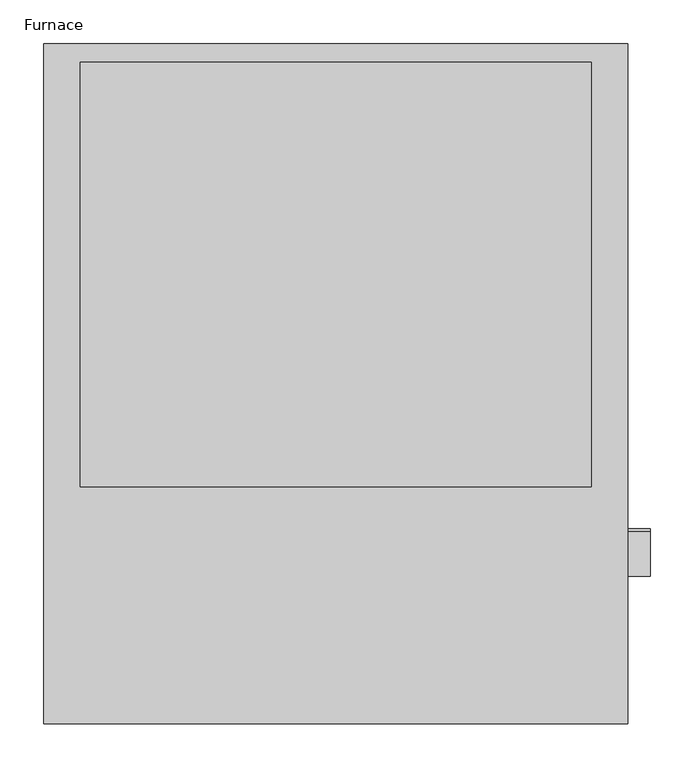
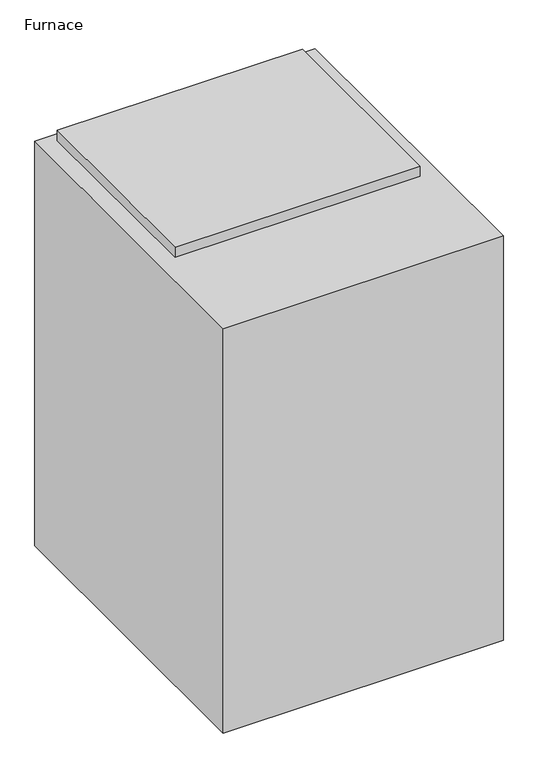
"""IFC4 building model written with IfcOpenShell, lengths in millimetres: proxy geometry, Furnace : 38000 BTUH."""

import ifcopenshell
import ifcopenshell.guid

model = None  # the IFC model being written
_history = None  # IfcOwnerHistory: only IFC2X3 demands one
_inside = {}  # id of a spatial element -> (the spatial element, [elements in it])
_under = {}  # id of a project, library or spatial element -> (it, [spatial elements below it])
_declared = {}  # id of a project -> (the project, [libraries it declares])
_typed = {}  # id of a type object -> (the type object, [elements of that type])
_made_of = {}  # id of a material, layer set ... -> (it, [elements and type objects made of it])


def new_model(schema):
    """Start an empty IFC model of exactly this schema.

    Asked for "IFC4X3", IfcOpenShell would pick the latest addendum, in which some entities
    have other attributes; the version numbers below select the first issue.
    IFC2X3 requires an IfcOwnerHistory on every rooted entity: one is made here for all.
    """
    global model, _history
    if schema == "IFC4X3":
        model = ifcopenshell.file(schema_version=(4, 3, 0, 0))
    else:
        model = ifcopenshell.file(schema=schema)
    _inside.clear()
    _under.clear()
    _declared.clear()
    _typed.clear()
    _made_of.clear()
    _history = None
    if model.schema == "IFC2X3":
        org = make("IfcOrganization", Name="unknown")
        user = make(
            "IfcPersonAndOrganization",
            ThePerson=make("IfcPerson", FamilyName="unknown"),
            TheOrganization=org,
        )
        app = make(
            "IfcApplication",
            ApplicationDeveloper=org,
            Version="unknown",
            ApplicationFullName="unknown",
            ApplicationIdentifier="unknown",
        )
        _history = make(
            "IfcOwnerHistory",
            OwningUser=user,
            OwningApplication=app,
            ChangeAction="ADDED",
            CreationDate=0,
        )
    return model


def make(cls, **values):
    """One entity of the class cls with the attributes given. An attribute that is None is left unset."""
    return model.create_entity(
        cls, **{name: value for name, value in values.items() if value is not None}
    )


def rooted(cls, **values):
    """An entity with a GlobalId (a new one), such as an element, a storey or a relation."""
    return make(cls, GlobalId=ifcopenshell.guid.new(), OwnerHistory=_history, **values)


def si_unit(unit_type, name, prefix=None):
    """IfcSIUnit, for example si_unit("LENGTHUNIT", "METRE", prefix="MILLI")."""
    return make("IfcSIUnit", UnitType=unit_type, Prefix=prefix, Name=name)


def assignment(units):
    """IfcUnitAssignment: the units of a project."""
    return None if units is None else make("IfcUnitAssignment", Units=units)


def point(xyz):
    """IfcCartesianPoint."""
    return None if xyz is None else make("IfcCartesianPoint", Coordinates=xyz)


def direction(xyz):
    """IfcDirection."""
    return None if xyz is None else make("IfcDirection", DirectionRatios=xyz)


def frame(location, z_axis=None, x_axis=None):
    """IfcAxis2Placement3D, a coordinate frame: its origin and axes. An axis left out is left unset."""
    return make(
        "IfcAxis2Placement3D",
        Location=point(location),
        Axis=direction(z_axis),
        RefDirection=direction(x_axis),
    )


def origin():
    """The frame at (0, 0, 0) with its axes left unset."""
    return frame((0.0, 0.0, 0.0))


def place(relative_to, where):
    """IfcLocalPlacement: puts the frame where relative to a parent placement (None: the world)."""
    return make(
        "IfcLocalPlacement", PlacementRelTo=relative_to, RelativePlacement=where
    )


def context(
    kind, dimensions, precision=None, world=None, true_north=None, identifier=None
):
    """IfcGeometricRepresentationContext, for example the 3D "Model" context."""
    return make(
        "IfcGeometricRepresentationContext",
        ContextIdentifier=identifier,
        ContextType=kind,
        CoordinateSpaceDimension=dimensions,
        Precision=precision,
        WorldCoordinateSystem=world,
        TrueNorth=true_north,
    )


def project(units=None, contexts=None):
    """IfcProject with its units and contexts."""
    return rooted(
        "IfcProject",
        Name="project",
        RepresentationContexts=contexts,
        UnitsInContext=assignment(units),
    )


def spatial(cls, under=None, at=None, **own):
    """A site, building, storey or space (cls), placed at a placement, below another one or the project."""
    s = rooted(cls, ObjectPlacement=at, **own)
    if under is not None:
        _under.setdefault(under.id(), (under, []))[1].append(s)
    return s


def circle_curve(where, radius):
    """IfcCircle in the frame where."""
    return make("IfcCircle", Position=where, Radius=radius)


def shape(context_of_items, identifier, shape_type, items):
    """IfcShapeRepresentation: the items that make up one representation, for example the "Body"."""
    return make(
        "IfcShapeRepresentation",
        ContextOfItems=context_of_items,
        RepresentationIdentifier=identifier,
        RepresentationType=shape_type,
        Items=items,
    )


def source(mapping_origin, context_of_items, identifier, shape_type, items):
    """IfcRepresentationMap: a shape defined once, which mapped items show again and again."""
    return make(
        "IfcRepresentationMap",
        MappingOrigin=mapping_origin,
        MappedRepresentation=shape(context_of_items, identifier, shape_type, items),
    )


def transform(
    local_origin,
    x_axis=None,
    y_axis=None,
    z_axis=None,
    scale=None,
    scale2=None,
    scale3=None,
    uniform=True,
):
    """IfcCartesianTransformationOperator3D, or its non-uniform kind. x_axis, y_axis, z_axis: its Axis1, 2, 3."""
    if uniform:
        return make(
            "IfcCartesianTransformationOperator3D",
            Axis1=direction(x_axis),
            Axis2=direction(y_axis),
            LocalOrigin=point(local_origin),
            Scale=scale,
            Axis3=direction(z_axis),
        )
    return make(
        "IfcCartesianTransformationOperator3DnonUniform",
        Axis1=direction(x_axis),
        Axis2=direction(y_axis),
        LocalOrigin=point(local_origin),
        Scale=scale,
        Axis3=direction(z_axis),
        Scale2=scale2,
        Scale3=scale3,
    )


def mapped(mapping_source, mapping_target):
    """IfcMappedItem: shows the shape of a source again, moved by a transform."""
    return make(
        "IfcMappedItem", MappingSource=mapping_source, MappingTarget=mapping_target
    )


def made_of(thing, what):
    """Note that an element or type object is made of a material, layer set ...; save() writes the relation."""
    if what is not None:
        _made_of.setdefault(what.id(), (what, []))[1].append(thing)
    return thing


def element(
    cls,
    number,
    at=None,
    inside=None,
    cuts=None,
    type_object=None,
    material=None,
    context=None,
    identifier="Body",
    shape_type=None,
    held_by="IfcProductDefinitionShape",
    body=None,
    shapes=None,
    **own,
):
    """One element of the class cls, such as IfcWall. Its Tag is "e" and its number.

    at: its placement. inside: the storey or other place that contains it. cuts: it is an
    opening in that element (IfcRelVoidsElement). A single representation is given by context,
    identifier, shape_type and body (its items); several are given by shapes. held_by: the class
    of the entity that holds the representations. save() writes the other relations.
    """
    e = rooted(cls, Tag="e%d" % number, ObjectPlacement=at, **own)
    if body is not None:
        shapes = [shape(context, identifier, shape_type, body)]
    if shapes is not None:
        e.Representation = make(held_by, Representations=shapes)
    if inside is not None:
        _inside.setdefault(inside.id(), (inside, []))[1].append(e)
    if cuts is not None:
        rooted(
            "IfcRelVoidsElement", RelatingBuildingElement=cuts, RelatedOpeningElement=e
        )
    if type_object is not None:
        _typed.setdefault(type_object.id(), (type_object, []))[1].append(e)
    return made_of(e, material)


def aggregate(whole, parts):
    """IfcRelAggregates: a whole, such as a stair, and the parts it consists of."""
    return rooted("IfcRelAggregates", RelatingObject=whole, RelatedObjects=parts)


def save(model, path):
    """Write the relations noted so far, then the file.

    IfcRelAggregates (storeys below a building ...), IfcRelContainedInSpatialStructure (elements
    in a storey), IfcRelDefinesByType, IfcRelAssociatesMaterial and IfcRelDeclares: one each for
    every whole, place, type object, material and project.
    """
    for whole, parts in _under.values():
        aggregate(whole, parts)
    for where, things in _inside.values():
        rooted(
            "IfcRelContainedInSpatialStructure",
            RelatedElements=things,
            RelatingStructure=where,
        )
    for kind, things in _typed.values():
        rooted("IfcRelDefinesByType", RelatedObjects=things, RelatingType=kind)
    for what, things in _made_of.values():
        rooted("IfcRelAssociatesMaterial", RelatedObjects=things, RelatingMaterial=what)
    for by, libraries in _declared.values():
        rooted("IfcRelDeclares", RelatingContext=by, RelatedDefinitions=libraries)
    model.write(path)


def plane_surface(at):
    """IfcPlane: the flat surface through the origin of the frame at, square to its z axis."""
    return make("IfcPlane", Position=at)


def cylinder_surface(at, radius):
    """IfcCylindricalSurface: all points at the distance radius from the z axis of the frame at."""
    return make("IfcCylindricalSurface", Position=at, Radius=radius)


def advanced_brep(points, edges, surfaces, faces):
    """IfcAdvancedBrep: a solid bounded by faces that lie on surfaces and meet in shared edges.

    An edge is (start, end): straight between two places in points (the first is 0);
    or (start, end, curve); or (start, end, curve, False) where it runs against its curve.
    A face is (place in surfaces, loops), or (place, loops, False) where it looks against
    its surface's normal. A loop lists edges by number (the first is 1), with a minus sign
    where the edge is run from its end to its start. The first loop is the outer one.
    """
    corners = [point(p) for p in points]
    vertices = [make("IfcVertexPoint", VertexGeometry=c) for c in corners]
    made = []
    for start, end, *more in edges:
        made.append(
            make(
                "IfcEdgeCurve",
                EdgeStart=vertices[start],
                EdgeEnd=vertices[end],
                EdgeGeometry=more[0] if more else make("IfcPolyline", Points=[corners[start], corners[end]]),
                SameSense=more[1] if len(more) > 1 else True,
            )
        )
    hull = []
    for where, loops, *sense in faces:
        bounds = []
        for j, loop in enumerate(loops):
            ring = [make("IfcOrientedEdge", EdgeElement=made[abs(k) - 1], Orientation=k > 0) for k in loop]
            bounds.append(
                make(
                    "IfcFaceOuterBound" if j == 0 else "IfcFaceBound",
                    Bound=make("IfcEdgeLoop", EdgeList=ring),
                    Orientation=True,
                )
            )
        hull.append(make("IfcAdvancedFace", Bounds=bounds, FaceSurface=surfaces[where], SameSense=sense[0] if sense else True))
    return make("IfcAdvancedBrep", Outer=make("IfcClosedShell", CfsFaces=hull))


def furnace_39496320(model_context):
    return source(origin(), model_context, "Body", "AdvancedBrep", [
        advanced_brep(
        [(0.0, 0.0, 1012.825), (-663.6499375, 0.0, 1012.825), (-663.6499375, -773.0229455, 1012.825), (0.0, -773.0229455, 1012.825), (-622.3374687, -20.6375, 1012.825), (-41.3124687, -20.6375, 1012.825), (-41.3124687, -503.2375, 1012.825), (-622.3374687, -503.2375, 1012.825), (0.0, 0.0, 0.0), (0.0, -773.0229455, 0.0), (-663.6499375, -773.0229455, 0.0), (-663.6499375, 0.0, 0.0), (0.0, -554.5666667, 844.55), (0.0, -605.3666667, 844.55), (0.0, -573.6166667, 774.7), (0.0, -586.3166667, 774.7), (0.0, -550.8625, 463.55), (0.0, -601.6625, 463.55), (25.4, -605.3666667, 844.55), (25.4, -554.5666667, 844.55), (25.4, -586.3166667, 774.7), (25.4, -573.6166667, 774.7), (25.4, -601.6625, 463.55), (25.4, -550.8625, 463.55), (-41.3124687, -20.6375, 1038.225), (-622.3374687, -20.6375, 1038.225), (-622.3374687, -503.2375, 1038.225), (-41.3124687, -503.2375, 1038.225)],
        [
            (0, 1),
            (1, 2),
            (2, 3),
            (3, 0),
            (4, 5),
            (5, 6),
            (6, 7),
            (7, 4),
            (8, 9),
            (9, 10),
            (10, 11),
            (11, 8),
            (0, 8),
            (11, 1),
            (10, 2),
            (9, 3),
            (12, 13, circle_curve(frame((0.0, -579.9666667, 844.55), z_axis=(-1.0, 0.0, 0.0), x_axis=(0.0, 1.0, 0.0)), 25.4)),
            (13, 12, circle_curve(frame((0.0, -579.9666667, 844.55), z_axis=(-1.0, 0.0, 0.0), x_axis=(0.0, 1.0, 0.0)), 25.4)),
            (14, 15, circle_curve(frame((0.0, -579.9666667, 774.7), z_axis=(-1.0, 0.0, 0.0), x_axis=(0.0, 1.0, 0.0)), 6.35)),
            (15, 14, circle_curve(frame((0.0, -579.9666667, 774.7), z_axis=(-1.0, 0.0, 0.0), x_axis=(0.0, 1.0, 0.0)), 6.35)),
            (16, 17, circle_curve(frame((0.0, -576.2625, 463.55), z_axis=(-1.0, 0.0, 0.0), x_axis=(0.0, 1.0, 0.0)), 25.4)),
            (17, 16, circle_curve(frame((0.0, -576.2625, 463.55), z_axis=(-1.0, 0.0, 0.0), x_axis=(0.0, 1.0, 0.0)), 25.4)),
            (18, 19, circle_curve(frame((25.4, -579.9666667, 844.55), z_axis=(1.0, 0.0, 0.0), x_axis=(0.0, 1.0, 0.0)), 25.4)),
            (19, 18, circle_curve(frame((25.4, -579.9666667, 844.55), z_axis=(1.0, 0.0, 0.0), x_axis=(0.0, 1.0, 0.0)), 25.4)),
            (20, 21, circle_curve(frame((25.4, -579.9666667, 774.7), z_axis=(1.0, 0.0, 0.0), x_axis=(0.0, 1.0, 0.0)), 6.35)),
            (21, 20, circle_curve(frame((25.4, -579.9666667, 774.7), z_axis=(1.0, 0.0, 0.0), x_axis=(0.0, 1.0, 0.0)), 6.35)),
            (22, 23, circle_curve(frame((25.4, -576.2625, 463.55), z_axis=(1.0, 0.0, 0.0), x_axis=(0.0, 1.0, 0.0)), 25.4)),
            (23, 22, circle_curve(frame((25.4, -576.2625, 463.55), z_axis=(1.0, 0.0, 0.0), x_axis=(0.0, 1.0, 0.0)), 25.4)),
            (18, 13),
            (12, 19),
            (20, 15),
            (14, 21),
            (22, 17),
            (16, 23),
            (24, 25),
            (25, 26),
            (26, 27),
            (27, 24),
            (24, 5),
            (4, 25),
            (7, 26),
            (6, 27),
        ],
        [
            plane_surface(frame((-663.6499375, 0.0, 1012.825), z_axis=(0.0, 0.0, 1.0), x_axis=(-1.0, 0.0, 0.0))),
            plane_surface(frame((-663.6499375, 0.0, 0.0), z_axis=(0.0, 0.0, -1.0), x_axis=(1.0, 0.0, 0.0))),
            plane_surface(frame((0.0, 0.0, 1012.825), z_axis=(0.0, 1.0, 0.0), x_axis=(0.0, 0.0, -1.0))),
            plane_surface(frame((-663.6499375, 0.0, 1012.825), z_axis=(-1.0, 0.0, 0.0), x_axis=(0.0, 0.0, -1.0))),
            plane_surface(frame((-663.6499375, -773.0229455, 1012.825), z_axis=(0.0, -1.0, 0.0), x_axis=(0.0, 0.0, -1.0))),
            plane_surface(frame((0.0, -773.0229455, 1012.825), z_axis=(1.0, 0.0, 0.0), x_axis=(0.0, 0.0, -1.0))),
            plane_surface(frame((25.4, -554.5666667, 844.55), z_axis=(1.0, 0.0, 0.0), x_axis=(0.0, 0.0, 1.0))),
            cylinder_surface(frame((0.0, -579.9666667, 844.55), z_axis=(1.0, 0.0, 0.0), x_axis=(0.0, 1.0, 0.0)), 25.4),
            cylinder_surface(frame((0.0, -579.9666667, 774.7), z_axis=(1.0, 0.0, 0.0), x_axis=(0.0, 1.0, 0.0)), 6.35),
            cylinder_surface(frame((0.0, -576.2625, 463.55), z_axis=(1.0, 0.0, 0.0), x_axis=(0.0, 1.0, 0.0)), 25.4),
            plane_surface(frame((-622.3374687, -20.6375, 1038.225), z_axis=(0.0, 0.0, 1.0), x_axis=(-1.0, 0.0, 0.0))),
            plane_surface(frame((-41.3124687, -20.6375, 1038.225), z_axis=(0.0, 1.0, 0.0), x_axis=(0.0, 0.0, -1.0))),
            plane_surface(frame((-622.3374687, -20.6375, 1038.225), z_axis=(-1.0, 0.0, 0.0), x_axis=(0.0, 0.0, -1.0))),
            plane_surface(frame((-622.3374687, -503.2375, 1038.225), z_axis=(0.0, -1.0, 0.0), x_axis=(0.0, 0.0, -1.0))),
            plane_surface(frame((-41.3124687, -503.2375, 1038.225), z_axis=(1.0, 0.0, 0.0), x_axis=(0.0, 0.0, -1.0))),
        ],
        [
            (0, [[1, 2, 3, 4], [5, 6, 7, 8]]),
            (1, [[9, 10, 11, 12]]),
            (2, [[-1, 13, -12, 14]]),
            (3, [[-2, -14, -11, 15]]),
            (4, [[-3, -15, -10, 16]]),
            (5, [[-4, -16, -9, -13], [17, 18], [19, 20], [21, 22]]),
            (6, [[23, 24]]),
            (6, [[25, 26]]),
            (6, [[27, 28]]),
            (7, [[-23, 29, -17, 30]]),
            (7, [[-24, -30, -18, -29]]),
            (8, [[-25, 31, -19, 32]]),
            (8, [[-26, -32, -20, -31]]),
            (9, [[-27, 33, -21, 34]]),
            (9, [[-28, -34, -22, -33]]),
            (10, [[35, 36, 37, 38]]),
            (11, [[-35, 39, -5, 40]]),
            (12, [[-36, -40, -8, 41]]),
            (13, [[-37, -41, -7, 42]]),
            (14, [[-38, -42, -6, -39]]),
        ],
    ),
    ])


if __name__ == "__main__":
    model = new_model("IFC4")
    model_context = context("Model", 3, world=origin())
    ifc_project = project(units=[si_unit("LENGTHUNIT", "METRE", prefix="MILLI")], contexts=[model_context])
    site = spatial("IfcSite", under=ifc_project)
    building = spatial("IfcBuilding", under=site)
    placement = place(None, origin())
    furnace_shape = furnace_39496320(model_context)
    element("IfcBuildingElementProxy", 1, Name="Furnace : 38000 BTUH", ObjectType="Furnace : 38000 BTUH", at=placement, inside=building, context=model_context, shape_type="MappedRepresentation", body=[
        mapped(furnace_shape, transform((0.0, 0.0, 0.0), x_axis=(1.0, 0.0, 0.0), y_axis=(0.0, 1.0, 0.0), z_axis=(0.0, 0.0, 1.0))),
    ])
    save(model, "model.ifc")
